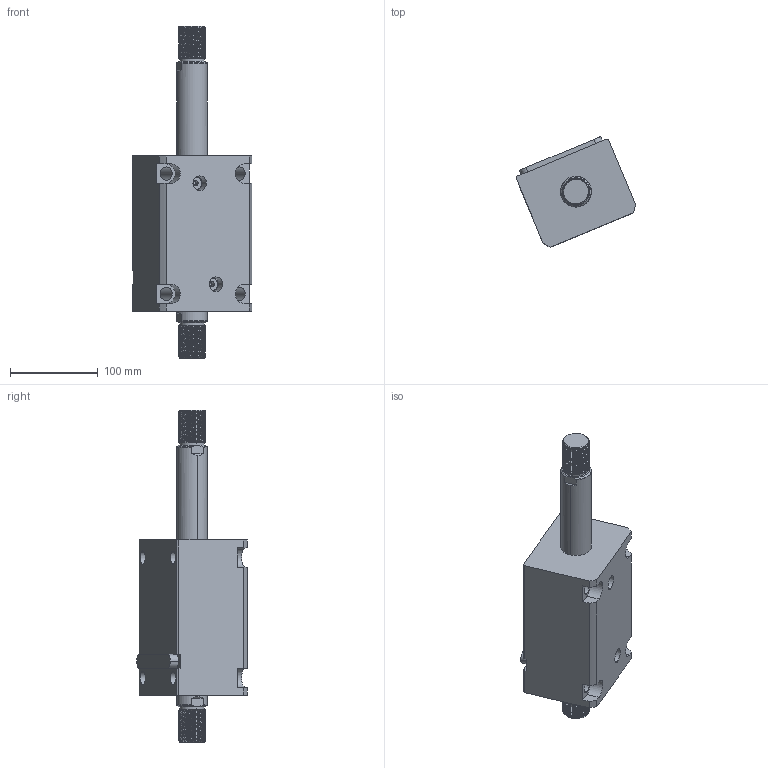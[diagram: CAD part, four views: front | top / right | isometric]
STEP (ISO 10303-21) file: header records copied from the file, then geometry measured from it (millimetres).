
FILE_DESCRIPTION (( 'STEP AP214' ), '1' );
FILE_NAME ('chtb-lw63x95w_asm.STEP', '2018-05-18T08:53:13', ( 'Windows' ), ( 'Microsoft' ), 'SwSTEP 2.0', 'SolidWorks 2015', '' );
FILE_SCHEMA (( 'AUTOMOTIVE_DESIGN' ));
Length unit declared in the file: millimetre
Products named in the file (5): CHTB-SW63X95WHSG; CHTB-LW63X95NBT; CHTB-LA63PJ; CHTB-63QG; chtb-lw63x95w_asm
Assembly tree (4 placements, depth 2):
  chtb-lw63x95w_asm
    CHTB-63QG
    CHTB-LA63PJ
    CHTB-LW63X95NBT
    CHTB-SW63X95WHSG
Bounding box: 135.77 x 126.06 x 378 mm (x, y, z)
Volume: 1677835 mm3; surface area: 217518.6 mm2
Topology: 4 solids, 4 shells, 306 faces, 889 edges, 601 vertices
Faces by surface type: cylinder 204, plane 58, bspline 16, cone 16, torus 12
Entity records: 27878 total; most frequent: CARTESIAN_POINT 20531, ORIENTED_EDGE 1770, DIRECTION 1228, EDGE_CURVE 885, VERTEX_POINT 601, AXIS2_PLACEMENT_3D 458, EDGE_LOOP 336, VECTOR 312
